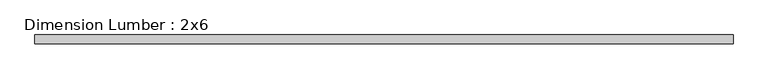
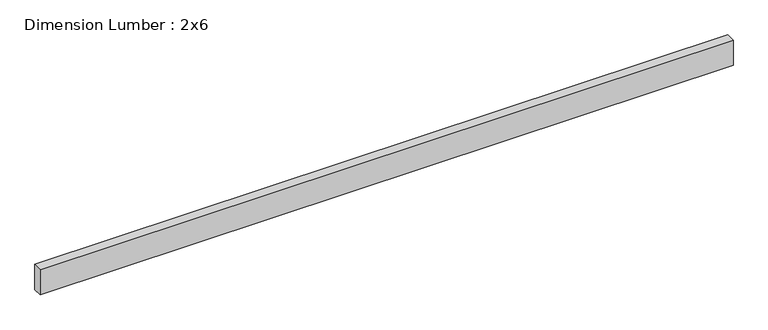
"""IFC4 building model written with IfcOpenShell, lengths in millimetres: beam geometry, Dimension Lumber : 2x6."""

from ifc_helpers import new_model, si_unit, frame, origin, place, context, project, spatial, polyline, outline, extrude, source, transform, mapped, element, save


def dimension_lumber_2x6_70357265(model_context):
    return source(origin(), model_context, "Body", "SweptSolid", [
        extrude(outline(polyline([(1959.3046217, 25.4), (1959.3046217, -25.4), (-1981.2, -25.4), (-1981.2, 25.4), (1959.3046217, 25.4)])), frame((0.0, 0.0, -76.2), z_axis=(0.0, 0.0, 1.0), x_axis=(1.0, 0.0, 0.0)), (0.0, 0.0, 1.0), 152.4),
    ])


if __name__ == "__main__":
    model = new_model("IFC4")
    model_context = context("Model", 3, world=origin())
    ifc_project = project(units=[si_unit("LENGTHUNIT", "METRE", prefix="MILLI")], contexts=[model_context])
    site = spatial("IfcSite", under=ifc_project)
    building = spatial("IfcBuilding", under=site)
    placement = place(None, origin())
    dimension_lumber_2x6_shape = dimension_lumber_2x6_70357265(model_context)
    element("IfcBeam", 1, ObjectType="Dimension Lumber : 2x6", at=placement, inside=building, context=model_context, shape_type="MappedRepresentation", body=[
        mapped(dimension_lumber_2x6_shape, transform((0.0, 0.0, 0.0), x_axis=(1.0, 0.0, 0.0), y_axis=(0.0, 1.0, 0.0), z_axis=(0.0, 0.0, 1.0))),
    ])
    save(model, "model.ifc")
